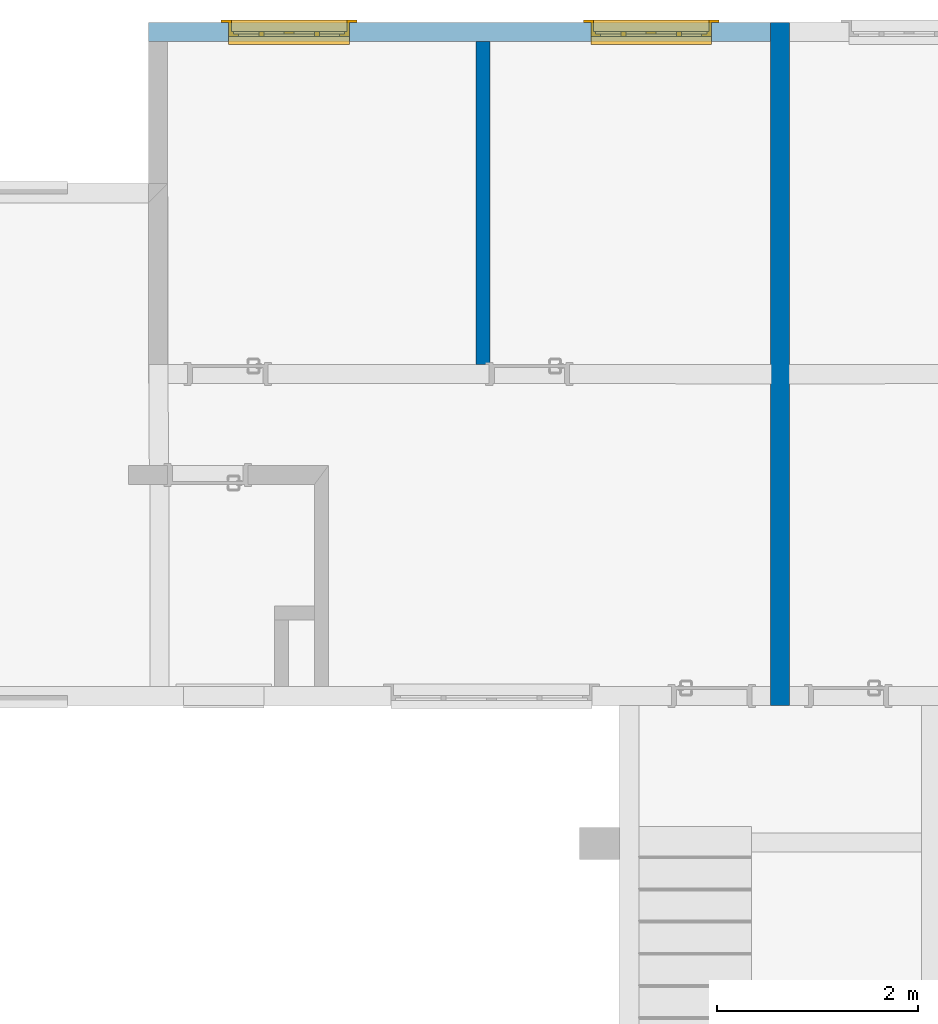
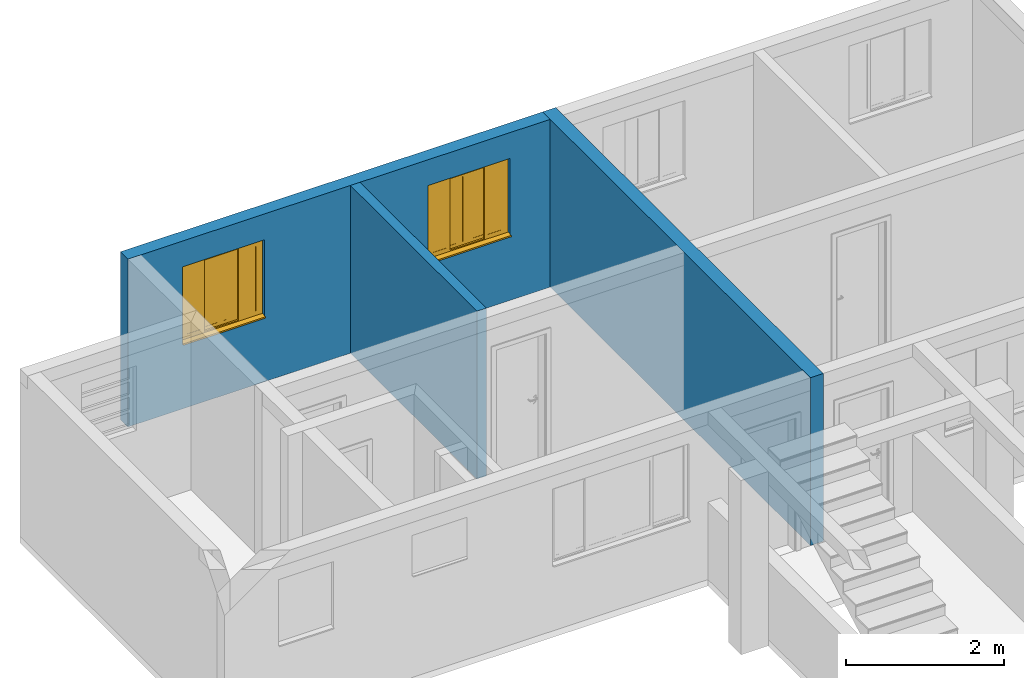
# One storey, part 35 of 43: 3 walls, 2 windows, 2 openings.
"""IFC2X3 building model written with IfcOpenShell, lengths in millimetres."""

from ifc_helpers import new_model, entity, si_unit, converted_unit, derived_unit, money_unit, direction, frame, origin_with_axes, origin_2d_with_axis, place, context, subcontext, project, spatial, polyline, rectangle, outline, extrude, open_shell, faceted_brep, surface_model, source, transform, mapped, material, layer, layer_set, layer_usage, type_object, element, fill, save


model = new_model("IFC2X3")

# Units and contexts
model_context = context("Model", 3, precision=0.01, world=origin_with_axes(), true_north=direction((0.0, 1.0)))
body_context = subcontext(model_context, "Body", "Model", "MODEL_VIEW")
ifc_project = project(units=[si_unit("LENGTHUNIT", "METRE", prefix="MILLI"), si_unit("AREAUNIT", "SQUARE_METRE"), si_unit("VOLUMEUNIT", "CUBIC_METRE"), converted_unit("PLANEANGLEUNIT", "DEGREE", entity("IfcPlaneAngleMeasure", 0.0174532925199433), si_unit("PLANEANGLEUNIT", "RADIAN"), dimensions=[0, 0, 0, 0, 0, 0, 0]), money_unit("USD"), converted_unit("TIMEUNIT", "Year", entity("IfcTimeMeasure", 31557600.0), si_unit("TIMEUNIT", "SECOND"), dimensions=[0, 0, 1, 0, 0, 0, 0]), si_unit("MASSUNIT", "GRAM", prefix="KILO"), si_unit("THERMODYNAMICTEMPERATUREUNIT", "DEGREE_CELSIUS"), si_unit("LUMINOUSINTENSITYUNIT", "LUMEN"), si_unit("ENERGYUNIT", "JOULE", prefix="MEGA"), derived_unit("THERMALCONDUCTANCEUNIT", [(si_unit("POWERUNIT", "WATT"), 1), (si_unit("LENGTHUNIT", "METRE"), -1), (si_unit("THERMODYNAMICTEMPERATUREUNIT", "KELVIN"), -1)]), derived_unit("SPECIFICHEATCAPACITYUNIT", [(si_unit("ENERGYUNIT", "JOULE"), 1), (si_unit("MASSUNIT", "GRAM", prefix="KILO"), -1), (si_unit("THERMODYNAMICTEMPERATUREUNIT", "KELVIN"), -1)]), derived_unit("MASSDENSITYUNIT", [(si_unit("MASSUNIT", "GRAM", prefix="KILO"), 1), (si_unit("VOLUMEUNIT", "CUBIC_METRE"), -1)])], contexts=[model_context])

# Site, building, storey
site_placement = place(None, origin_with_axes())
site = spatial("IfcSite", under=ifc_project, at=site_placement, Name="Local", CompositionType="ELEMENT")
building_placement = place(site_placement, origin_with_axes())
building = spatial("IfcBuilding", under=site, at=building_placement, Name="Construção", CompositionType="ELEMENT")
storey_placement = place(building_placement, origin_with_axes())
storey = spatial("IfcBuildingStorey", under=building, at=storey_placement, Name="Pavimento Tipo", CompositionType="ELEMENT", Elevation=0.0)

# Wall
ifc_material_1 = material(Name="Concreto - Estrutural")
ifc_layer_1 = layer(ifc_material_1, 190.0, ventilated="UNKNOWN")
ifc_layer_set_1 = layer_set([ifc_layer_1], Name="Concreto - Estrutural 190")
ifc_layer_usage_1 = layer_usage(ifc_layer_set_1, "AXIS2", "NEGATIVE", 0.0)
wall_type_1 = type_object("IfcWallType", Name="Concreto - Estrutural 190", PredefinedType="NOTDEFINED")
wall_1_placement = place(storey_placement, frame((63892.19973179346, 12435.36495309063, 0.0), z_axis=(0.0, 0.0, 1.0), x_axis=(0.0, -1.0, 0.0)))
element("IfcWallStandardCase", 1, at=wall_1_placement, inside=storey, type_object=wall_type_1, material=ifc_layer_usage_1, Name="Apartamentos 1 e 2 - Parede-006", context=body_context, shape_type="SweptSolid", body=[
    extrude(outline(polyline([(0.0, -189.9999999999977), (6792.903432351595, -189.9999999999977), (6792.903432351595, 0.0), (0.0, 0.0), (0.0, -189.9999999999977)])), origin_with_axes(), (0.0, 0.0, 1.0), 2600.000000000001),
])

# Wall, openings, windows
ifc_layer_usage_2 = layer_usage(ifc_layer_set_1, "AXIS2", "POSITIVE", 0.0)
wall_2_placement = place(storey_placement, frame((57514.86531294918, 12245.36495309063, 0.0), z_axis=(0.0, 0.0, 1.0), x_axis=(1.0, 0.0, 0.0)))
wall_2 = element("IfcWallStandardCase", 2, at=wall_2_placement, inside=storey, type_object=wall_type_1, material=ifc_layer_usage_2, Name="Apartamento 2 - Parede-005", context=body_context, shape_type="SweptSolid", body=[
    extrude(outline(polyline([(0.0, 0.0), (6187.334418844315, 0.0), (6187.334418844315, 189.9999999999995), (0.0, 189.9999999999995), (0.0, 0.0)])), origin_with_axes(), (0.0, 0.0, 1.0), 2600.0),
])
opening_1_placement = place(wall_2_placement, frame((4999.999999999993, 0.0, 1000.0), z_axis=(0.0, 0.0, 1.0), x_axis=(1.0, 0.0, 0.0)))
opening_1 = element("IfcOpeningElement", 3, at=opening_1_placement, cuts=wall_2, Name="Apartamento 2 - J06", context=body_context, shape_type="SweptSolid", body=[
    extrude(rectangle(XDim=1200.000000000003, YDim=1200.0, at=origin_2d_with_axis()), frame((0.0, 49.99999999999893, 600.0000000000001), z_axis=(0.0, 1.0, 0.0), x_axis=(-1.0, 0.0, 0.0)), (0.0, 0.0, 1.0), 330.0),
    extrude(rectangle(XDim=1200.000000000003, YDim=1200.0, at=origin_2d_with_axis()), frame((0.0, 50.00000000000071, 600.0000000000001), z_axis=(0.0, -1.0, 0.0), x_axis=(-1.0, 0.0, 0.0)), (0.0, 0.0, 1.0), 240.0),
    extrude(rectangle(XDim=1349.999999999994, YDim=1350.0, at=origin_2d_with_axis()), frame((0.0, 189.9999999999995, 600.0000000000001), z_axis=(0.0, 1.0, 0.0), x_axis=(-1.0, 0.0, 0.0)), (0.0, 0.0, 1.0), 240.0),
])
opening_2_placement = place(wall_2_placement, frame((1399.999999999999, 0.0, 1000.0), z_axis=(0.0, 0.0, 1.0), x_axis=(1.0, 0.0, 0.0)))
opening_2 = element("IfcOpeningElement", 4, at=opening_2_placement, cuts=wall_2, Name="Apartamento 2 - J05", context=body_context, shape_type="SweptSolid", body=[
    extrude(rectangle(XDim=1200.000000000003, YDim=1200.0, at=origin_2d_with_axis()), frame((0.0, 49.99999999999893, 600.0000000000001), z_axis=(0.0, 1.0, 0.0), x_axis=(-1.0, 0.0, 0.0)), (0.0, 0.0, 1.0), 330.0),
    extrude(rectangle(XDim=1200.000000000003, YDim=1200.0, at=origin_2d_with_axis()), frame((0.0, 50.00000000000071, 600.0000000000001), z_axis=(0.0, -1.0, 0.0), x_axis=(-1.0, 0.0, 0.0)), (0.0, 0.0, 1.0), 240.0),
    extrude(rectangle(XDim=1349.999999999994, YDim=1350.0, at=origin_2d_with_axis()), frame((0.0, 189.9999999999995, 600.0000000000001), z_axis=(0.0, 1.0, 0.0), x_axis=(-1.0, 0.0, 0.0)), (0.0, 0.0, 1.0), 240.0),
])
window_style = type_object("IfcWindowStyle", Name="Janela de Correr 4-Folhas 27", ConstructionType="NOTDEFINED", OperationType="USERDEFINED", ParameterTakesPrecedence=False, Sizeable=False)
shared_shape = source(origin_with_axes(), body_context, "Body", "SurfaceModel", [
    faceted_brep([(600.0, -50.0, 4.999999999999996), (600.0, -50.0, 30.0), (600.0, -100.0, 27.37961103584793), (600.0, -100.0, 4.999999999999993), (-600.0, -50.0, 4.999999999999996), (-600.0, -50.0, 30.0), (-600.0, -100.0, 27.37961103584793), (-600.0, -130.0, 25.80737765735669), (600.0, -130.0, 25.80737765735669), (600.0, -130.0, 4.999999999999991), (-600.0, -130.0, 4.999999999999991), (-600.0, -100.0, 4.999999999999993)], [[[0, 1, 2, 3]], [[4, 5, 1, 0]], [[1, 5, 6, 7, 8, 2]], [[3, 2, 8, 9]], [[0, 3, 9, 10, 11, 4]], [[11, 6, 5, 4]], [[10, 7, 6, 11]], [[9, 8, 7, 10]]]),
    faceted_brep([(600.0, -50.0, 0.0), (600.0, -50.0, 4.999999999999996), (600.0, -100.0, 4.999999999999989), (600.0, -100.0, 0.0), (-600.0, -50.0, 0.0), (-600.0, -50.0, 4.999999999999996), (-600.0, -100.0, 4.999999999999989), (-600.0, -100.0, 0.0)], [[[0, 1, 2, 3]], [[4, 5, 1, 0]], [[1, 5, 6, 2]], [[3, 2, 6, 7]], [[0, 3, 7, 4]], [[7, 6, 5, 4]]]),
    faceted_brep([(600.0, 0.0, 0.0), (-600.0, 0.0, 0.0), (-600.0, 90.00000000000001, 0.0), (600.0, 90.00000000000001, 0.0), (600.0, 0.0, 1200.0), (-600.0, 0.0, 1200.0), (575.0, 0.0, 24.99999999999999), (-575.0, 0.0, 24.99999999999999), (-575.0, 0.0, 1175.0), (575.0, 0.0, 1175.0), (-600.0, 90.00000000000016, 1200.0), (600.0, 90.00000000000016, 1200.0), (575.0, 90.00000000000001, 24.99999999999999), (575.0, 90.00000000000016, 1175.0), (-575.0, 90.00000000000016, 1175.0), (-575.0, 90.00000000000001, 24.99999999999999)], [[[0, 1, 2, 3]], [[0, 4, 5, 1], [6, 7, 8, 9]], [[1, 5, 10, 2]], [[3, 2, 10, 11], [12, 13, 14, 15]], [[4, 0, 3, 11]], [[5, 4, 11, 10]], [[7, 6, 12, 15]], [[8, 7, 15, 14]], [[9, 8, 14, 13]], [[6, 9, 13, 12]]]),
    faceted_brep([(674.9999999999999, 115.0, -75.00000000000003), (674.9999999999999, 90.00000000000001, -75.00000000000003), (575.0, 90.00000000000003, 24.99999999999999), (575.0, 115.0, 24.99999999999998), (674.9999999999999, 115.0000000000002, 1275.0), (674.9999999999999, 90.00000000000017, 1275.0), (575.0, 90.00000000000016, 1175.0), (575.0, 115.0000000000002, 1175.0)], [[[0, 1, 2, 3]], [[4, 5, 1, 0]], [[1, 5, 6, 2]], [[3, 2, 6, 7]], [[0, 3, 7, 4]], [[7, 6, 5, 4]]]),
    faceted_brep([(-674.9999999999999, 115.0000000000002, 1275.0), (-674.9999999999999, 90.00000000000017, 1275.0), (-575.0, 90.00000000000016, 1175.0), (-575.0, 115.0000000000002, 1175.0), (-674.9999999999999, 115.0, -75.00000000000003), (-674.9999999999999, 90.00000000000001, -75.00000000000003), (-575.0, 90.00000000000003, 24.99999999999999), (-575.0, 115.0, 24.99999999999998)], [[[0, 1, 2, 3]], [[4, 5, 1, 0]], [[1, 5, 6, 2]], [[3, 2, 6, 7]], [[0, 3, 7, 4]], [[7, 6, 5, 4]]]),
    faceted_brep([(-674.9999999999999, 115.0, -75.00000000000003), (-674.9999999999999, 90.00000000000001, -75.00000000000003), (-575.0, 90.00000000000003, 24.99999999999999), (-575.0, 115.0, 24.99999999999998), (674.9999999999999, 115.0, -75.00000000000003), (674.9999999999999, 90.00000000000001, -75.00000000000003), (575.0, 90.00000000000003, 24.99999999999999), (575.0, 115.0, 24.99999999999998)], [[[0, 1, 2, 3]], [[4, 5, 1, 0]], [[1, 5, 6, 2]], [[3, 2, 6, 7]], [[0, 3, 7, 4]], [[7, 6, 5, 4]]]),
    faceted_brep([(674.9999999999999, 115.0000000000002, 1275.0), (674.9999999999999, 90.00000000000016, 1275.0), (575.0, 90.00000000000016, 1175.0), (575.0, 115.0000000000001, 1175.0), (-674.9999999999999, 115.0000000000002, 1275.0), (-674.9999999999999, 90.00000000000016, 1275.0), (-575.0, 90.00000000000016, 1175.0), (-575.0, 115.0000000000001, 1175.0)], [[[0, 1, 2, 3]], [[4, 5, 1, 0]], [[1, 5, 6, 2]], [[3, 2, 6, 7]], [[0, 3, 7, 4]], [[7, 6, 5, 4]]]),
    faceted_brep([(552.9999999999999, -50.00000000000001, 47.0), (552.9999999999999, -50.00000000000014, 1153.0), (552.9999999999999, 0.0, 1153.0), (552.9999999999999, 0.0, 47.00000000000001), (600.0, -50.00000000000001, 47.0), (600.0, -50.00000000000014, 1153.0), (600.0, 0.0, 1153.0), (600.0, 0.0, 47.00000000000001)], [[[0, 1, 2, 3]], [[0, 4, 5, 1]], [[1, 5, 6, 2]], [[3, 2, 6, 7]], [[4, 0, 3, 7]], [[5, 4, 7, 6]]]),
    faceted_brep([(-600.0, -50.00000000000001, 47.0), (-600.0, -50.00000000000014, 1153.0), (-600.0, 0.0, 1153.0), (-600.0, 0.0, 47.00000000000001), (-552.9999999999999, -50.00000000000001, 47.0), (-552.9999999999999, -50.00000000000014, 1153.0), (-552.9999999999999, 0.0, 1153.0), (-552.9999999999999, 0.0, 47.00000000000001)], [[[0, 1, 2, 3]], [[0, 4, 5, 1]], [[1, 5, 6, 2]], [[3, 2, 6, 7]], [[4, 0, 3, 7]], [[5, 4, 7, 6]]]),
    faceted_brep([(-600.0, -50.00000000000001, 47.0), (-552.9999999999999, -50.00000000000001, 47.0), (-552.9999999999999, 0.0, 47.00000000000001), (-600.0, 0.0, 47.00000000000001), (-600.0, -50.0, 0.0), (600.0, -50.0, 0.0), (600.0, -50.00000000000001, 47.0), (552.9999999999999, -50.00000000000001, 47.0), (552.9999999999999, 0.0, 47.00000000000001), (600.0, 0.0, 47.00000000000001), (600.0, 0.0, 0.0), (-600.0, 0.0, 0.0)], [[[0, 1, 2, 3]], [[0, 4, 5, 6, 7, 1]], [[1, 7, 8, 2]], [[3, 2, 8, 9, 10, 11]], [[4, 0, 3, 11]], [[5, 4, 11, 10]], [[6, 5, 10, 9]], [[7, 6, 9, 8]]]),
    faceted_brep([(-600.0, -50.00000000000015, 1200.0), (600.0, -50.00000000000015, 1200.0), (600.0, 0.0, 1200.0), (-600.0, 0.0, 1200.0), (-600.0, -50.00000000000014, 1153.0), (-552.9999999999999, -50.00000000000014, 1153.0), (-276.5, -50.00000000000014, 1153.0), (0.0, -50.00000000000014, 1153.0), (276.4999999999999, -50.00000000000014, 1153.0), (552.9999999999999, -50.00000000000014, 1153.0), (600.0, -50.00000000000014, 1153.0), (600.0, 0.0, 1153.0), (552.9999999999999, 0.0, 1153.0), (276.4999999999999, 0.0, 1153.0), (0.0, 0.0, 1153.0), (-276.5, 0.0, 1153.0), (-552.9999999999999, 0.0, 1153.0), (-600.0, 0.0, 1153.0)], [[[0, 1, 2, 3]], [[0, 4, 5, 6, 7, 8, 9, 10, 1]], [[1, 10, 11, 2]], [[3, 2, 11, 12, 13, 14, 15, 16, 17]], [[4, 0, 3, 17]], [[5, 4, 17, 16]], [[6, 5, 16, 15]], [[7, 6, 15, 14]], [[8, 7, 14, 13]], [[9, 8, 13, 12]], [[10, 9, 12, 11]]]),
    faceted_brep([(502.9999999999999, -50.00000000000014, 1103.0), (552.9999999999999, -50.00000000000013, 1103.0), (552.9999999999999, -25.00000000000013, 1103.0), (502.9999999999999, -25.00000000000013, 1103.0), (502.9999999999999, -50.00000000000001, 97.0), (552.9999999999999, -50.00000000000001, 97.0), (552.9999999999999, -25.0, 97.0), (502.9999999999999, -25.00000000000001, 97.0)], [[[0, 1, 2, 3]], [[0, 4, 5, 1]], [[1, 5, 6, 2]], [[3, 2, 6, 7]], [[4, 0, 3, 7]], [[5, 4, 7, 6]]]),
    faceted_brep([(301.4999999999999, -50.00000000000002, 97.0), (251.4999999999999, -50.00000000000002, 97.0), (251.4999999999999, -25.00000000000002, 97.0), (301.4999999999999, -25.00000000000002, 97.0), (301.4999999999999, -50.00000000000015, 1103.0), (251.4999999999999, -50.00000000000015, 1103.0), (251.4999999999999, -25.00000000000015, 1103.0), (301.4999999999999, -25.00000000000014, 1103.0)], [[[0, 1, 2, 3]], [[0, 4, 5, 1]], [[1, 5, 6, 2]], [[3, 2, 6, 7]], [[4, 0, 3, 7]], [[5, 4, 7, 6]]]),
    faceted_brep([(251.4999999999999, -50.00000000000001, 47.0), (251.4999999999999, -50.00000000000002, 97.0), (251.4999999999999, -25.00000000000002, 97.0), (251.4999999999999, -25.00000000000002, 47.0), (552.9999999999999, -50.0, 47.0), (552.9999999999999, -50.00000000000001, 97.0), (502.9999999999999, -50.00000000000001, 97.0), (301.4999999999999, -50.00000000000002, 97.0), (301.4999999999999, -25.00000000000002, 97.0), (502.9999999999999, -25.00000000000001, 97.0), (552.9999999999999, -25.0, 97.0), (552.9999999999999, -25.0, 47.0)], [[[0, 1, 2, 3]], [[0, 4, 5, 6, 7, 1]], [[1, 7, 8, 2]], [[3, 2, 8, 9, 10, 11]], [[4, 0, 3, 11]], [[5, 4, 11, 10]], [[6, 5, 10, 9]], [[7, 6, 9, 8]]]),
    faceted_brep([(552.9999999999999, -50.00000000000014, 1153.0), (552.9999999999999, -50.00000000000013, 1103.0), (552.9999999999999, -25.00000000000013, 1103.0), (552.9999999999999, -25.00000000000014, 1153.0), (251.4999999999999, -50.00000000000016, 1153.0), (251.4999999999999, -50.00000000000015, 1103.0), (301.4999999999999, -50.00000000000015, 1103.0), (502.9999999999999, -50.00000000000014, 1103.0), (502.9999999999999, -25.00000000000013, 1103.0), (301.4999999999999, -25.00000000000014, 1103.0), (251.4999999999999, -25.00000000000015, 1103.0), (251.4999999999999, -25.00000000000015, 1153.0)], [[[0, 1, 2, 3]], [[0, 4, 5, 6, 7, 1]], [[1, 7, 8, 2]], [[3, 2, 8, 9, 10, 11]], [[4, 0, 3, 11]], [[5, 4, 11, 10]], [[6, 5, 10, 9]], [[7, 6, 9, 8]]]),
    surface_model("IfcShellBasedSurfaceModel", [(502.9999999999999, -47.50000000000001, 97.0), (502.9999999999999, -47.50000000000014, 1103.0), (301.4999999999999, -47.50000000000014, 1103.0), (301.4999999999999, -47.50000000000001, 97.0)], [open_shell([[[0, 1, 2, 3]]])]),
    surface_model("IfcShellBasedSurfaceModel", [(502.9999999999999, -27.50000000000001, 97.0), (301.4999999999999, -27.50000000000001, 97.0), (301.4999999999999, -27.50000000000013, 1103.0), (502.9999999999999, -27.50000000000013, 1103.0)], [open_shell([[[0, 1, 2, 3]]])]),
    faceted_brep([(251.4999999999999, -25.00000000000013, 1103.0), (301.4999999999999, -25.00000000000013, 1103.0), (301.4999999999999, 0.0, 1103.0), (251.4999999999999, 0.0, 1103.0), (251.4999999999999, -25.00000000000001, 97.0), (301.4999999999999, -25.0, 97.0), (301.4999999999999, 0.0, 97.0), (251.4999999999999, 0.0, 97.0)], [[[0, 1, 2, 3]], [[0, 4, 5, 1]], [[1, 5, 6, 2]], [[3, 2, 6, 7]], [[4, 0, 3, 7]], [[5, 4, 7, 6]]]),
    faceted_brep([(49.99999999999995, -25.00000000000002, 97.0), (0.0, -25.00000000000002, 97.0), (0.0, 0.0, 97.0), (49.99999999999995, 0.0, 97.0), (49.99999999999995, -25.00000000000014, 1103.0), (0.0, -25.00000000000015, 1103.0), (0.0, 0.0, 1103.0), (49.99999999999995, 0.0, 1103.0)], [[[0, 1, 2, 3]], [[0, 4, 5, 1]], [[1, 5, 6, 2]], [[3, 2, 6, 7]], [[4, 0, 3, 7]], [[5, 4, 7, 6]]]),
    faceted_brep([(0.0, -25.00000000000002, 47.0), (0.0, -25.00000000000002, 97.0), (0.0, 0.0, 97.0), (0.0, 0.0, 47.0), (301.4999999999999, -25.0, 47.0), (301.4999999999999, -25.0, 97.0), (251.4999999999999, -25.00000000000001, 97.0), (49.99999999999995, -25.00000000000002, 97.0), (49.99999999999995, 0.0, 97.0), (251.4999999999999, 0.0, 97.0), (301.4999999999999, 0.0, 97.0), (301.4999999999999, 0.0, 47.0)], [[[0, 1, 2, 3]], [[0, 4, 5, 6, 7, 1]], [[1, 7, 8, 2]], [[3, 2, 8, 9, 10, 11]], [[4, 0, 3, 11]], [[5, 4, 11, 10]], [[6, 5, 10, 9]], [[7, 6, 9, 8]]]),
    faceted_brep([(301.4999999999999, -25.00000000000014, 1153.0), (301.4999999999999, -25.00000000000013, 1103.0), (301.4999999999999, 0.0, 1103.0), (301.4999999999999, 0.0, 1153.0), (0.0, -25.00000000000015, 1153.0), (0.0, -25.00000000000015, 1103.0), (49.99999999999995, -25.00000000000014, 1103.0), (251.4999999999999, -25.00000000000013, 1103.0), (251.4999999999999, 0.0, 1103.0), (49.99999999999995, 0.0, 1103.0), (0.0, 0.0, 1103.0), (0.0, 0.0, 1153.0)], [[[0, 1, 2, 3]], [[0, 4, 5, 6, 7, 1]], [[1, 7, 8, 2]], [[3, 2, 8, 9, 10, 11]], [[4, 0, 3, 11]], [[5, 4, 11, 10]], [[6, 5, 10, 9]], [[7, 6, 9, 8]]]),
    surface_model("IfcShellBasedSurfaceModel", [(251.4999999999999, -22.50000000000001, 97.0), (251.4999999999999, -22.50000000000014, 1103.0), (49.99999999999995, -22.50000000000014, 1103.0), (49.99999999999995, -22.50000000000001, 97.0)], [open_shell([[[0, 1, 2, 3]]])]),
    surface_model("IfcShellBasedSurfaceModel", [(251.4999999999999, -2.500000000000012, 97.0), (49.99999999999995, -2.500000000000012, 97.0), (49.99999999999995, -2.500000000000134, 1103.0), (251.4999999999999, -2.500000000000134, 1103.0)], [open_shell([[[0, 1, 2, 3]]])]),
    faceted_brep([(-50.00000000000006, -25.00000000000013, 1103.0), (0.0, -25.00000000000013, 1103.0), (0.0, 0.0, 1103.0), (-50.00000000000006, 0.0, 1103.0), (-50.00000000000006, -25.00000000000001, 97.0), (0.0, -25.0, 97.0), (0.0, 0.0, 97.0), (-50.00000000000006, 0.0, 97.0)], [[[0, 1, 2, 3]], [[0, 4, 5, 1]], [[1, 5, 6, 2]], [[3, 2, 6, 7]], [[4, 0, 3, 7]], [[5, 4, 7, 6]]]),
    faceted_brep([(-251.5000000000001, -25.00000000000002, 97.0), (-301.5000000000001, -25.00000000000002, 97.0), (-301.5000000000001, 0.0, 97.0), (-251.5000000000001, 0.0, 97.0), (-251.5000000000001, -25.00000000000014, 1103.0), (-301.5000000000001, -25.00000000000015, 1103.0), (-301.5000000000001, 0.0, 1103.0), (-251.5000000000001, 0.0, 1103.0)], [[[0, 1, 2, 3]], [[0, 4, 5, 1]], [[1, 5, 6, 2]], [[3, 2, 6, 7]], [[4, 0, 3, 7]], [[5, 4, 7, 6]]]),
    faceted_brep([(-301.5000000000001, -25.00000000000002, 47.0), (-301.5000000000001, -25.00000000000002, 97.0), (-301.5000000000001, 0.0, 97.0), (-301.5000000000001, 0.0, 47.0), (0.0, -25.0, 47.0), (0.0, -25.0, 97.0), (-50.00000000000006, -25.00000000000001, 97.0), (-251.5000000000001, -25.00000000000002, 97.0), (-251.5000000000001, 0.0, 97.0), (-50.00000000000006, 0.0, 97.0), (0.0, 0.0, 97.0), (0.0, 0.0, 47.0)], [[[0, 1, 2, 3]], [[0, 4, 5, 6, 7, 1]], [[1, 7, 8, 2]], [[3, 2, 8, 9, 10, 11]], [[4, 0, 3, 11]], [[5, 4, 11, 10]], [[6, 5, 10, 9]], [[7, 6, 9, 8]]]),
    faceted_brep([(0.0, -25.00000000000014, 1153.0), (0.0, -25.00000000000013, 1103.0), (0.0, 0.0, 1103.0), (0.0, 0.0, 1153.0), (-301.5000000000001, -25.00000000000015, 1153.0), (-301.5000000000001, -25.00000000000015, 1103.0), (-251.5000000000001, -25.00000000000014, 1103.0), (-50.00000000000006, -25.00000000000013, 1103.0), (-50.00000000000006, 0.0, 1103.0), (-251.5000000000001, 0.0, 1103.0), (-301.5000000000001, 0.0, 1103.0), (-301.5000000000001, 0.0, 1153.0)], [[[0, 1, 2, 3]], [[0, 4, 5, 6, 7, 1]], [[1, 7, 8, 2]], [[3, 2, 8, 9, 10, 11]], [[4, 0, 3, 11]], [[5, 4, 11, 10]], [[6, 5, 10, 9]], [[7, 6, 9, 8]]]),
    surface_model("IfcShellBasedSurfaceModel", [(-50.00000000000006, -22.50000000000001, 97.0), (-50.00000000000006, -22.50000000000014, 1103.0), (-251.5000000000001, -22.50000000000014, 1103.0), (-251.5000000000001, -22.50000000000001, 97.0)], [open_shell([[[0, 1, 2, 3]]])]),
    surface_model("IfcShellBasedSurfaceModel", [(-50.00000000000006, -2.500000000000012, 97.0), (-251.5000000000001, -2.500000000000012, 97.0), (-251.5000000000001, -2.500000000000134, 1103.0), (-50.00000000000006, -2.500000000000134, 1103.0)], [open_shell([[[0, 1, 2, 3]]])]),
    faceted_brep([(-301.5000000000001, -50.00000000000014, 1103.0), (-251.5000000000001, -50.00000000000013, 1103.0), (-251.5000000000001, -25.00000000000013, 1103.0), (-301.5000000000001, -25.00000000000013, 1103.0), (-301.5000000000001, -50.00000000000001, 97.0), (-251.5000000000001, -50.00000000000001, 97.0), (-251.5000000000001, -25.0, 97.0), (-301.5000000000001, -25.00000000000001, 97.0)], [[[0, 1, 2, 3]], [[0, 4, 5, 1]], [[1, 5, 6, 2]], [[3, 2, 6, 7]], [[4, 0, 3, 7]], [[5, 4, 7, 6]]]),
    faceted_brep([(-503.0, -50.00000000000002, 97.0), (-553.0, -50.00000000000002, 97.0), (-553.0, -25.00000000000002, 97.0), (-503.0, -25.00000000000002, 97.0), (-503.0, -50.00000000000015, 1103.0), (-553.0, -50.00000000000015, 1103.0), (-553.0, -25.00000000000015, 1103.0), (-503.0, -25.00000000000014, 1103.0)], [[[0, 1, 2, 3]], [[0, 4, 5, 1]], [[1, 5, 6, 2]], [[3, 2, 6, 7]], [[4, 0, 3, 7]], [[5, 4, 7, 6]]]),
    faceted_brep([(-553.0, -50.00000000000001, 47.0), (-553.0, -50.00000000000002, 97.0), (-553.0, -25.00000000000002, 97.0), (-553.0, -25.00000000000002, 47.0), (-251.5000000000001, -50.0, 47.0), (-251.5000000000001, -50.00000000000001, 97.0), (-301.5000000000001, -50.00000000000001, 97.0), (-503.0, -50.00000000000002, 97.0), (-503.0, -25.00000000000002, 97.0), (-301.5000000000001, -25.00000000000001, 97.0), (-251.5000000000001, -25.0, 97.0), (-251.5000000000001, -25.0, 47.0)], [[[0, 1, 2, 3]], [[0, 4, 5, 6, 7, 1]], [[1, 7, 8, 2]], [[3, 2, 8, 9, 10, 11]], [[4, 0, 3, 11]], [[5, 4, 11, 10]], [[6, 5, 10, 9]], [[7, 6, 9, 8]]]),
    faceted_brep([(-251.5000000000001, -50.00000000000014, 1153.0), (-251.5000000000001, -50.00000000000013, 1103.0), (-251.5000000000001, -25.00000000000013, 1103.0), (-251.5000000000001, -25.00000000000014, 1153.0), (-553.0, -50.00000000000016, 1153.0), (-553.0, -50.00000000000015, 1103.0), (-503.0, -50.00000000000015, 1103.0), (-301.5000000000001, -50.00000000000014, 1103.0), (-301.5000000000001, -25.00000000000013, 1103.0), (-503.0, -25.00000000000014, 1103.0), (-553.0, -25.00000000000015, 1103.0), (-553.0, -25.00000000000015, 1153.0)], [[[0, 1, 2, 3]], [[0, 4, 5, 6, 7, 1]], [[1, 7, 8, 2]], [[3, 2, 8, 9, 10, 11]], [[4, 0, 3, 11]], [[5, 4, 11, 10]], [[6, 5, 10, 9]], [[7, 6, 9, 8]]]),
    surface_model("IfcShellBasedSurfaceModel", [(-301.5, -47.50000000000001, 97.0), (-301.5, -47.50000000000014, 1103.0), (-503.0, -47.50000000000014, 1103.0), (-503.0, -47.50000000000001, 97.0)], [open_shell([[[0, 1, 2, 3]]])]),
    surface_model("IfcShellBasedSurfaceModel", [(-301.5, -27.50000000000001, 97.0), (-503.0, -27.50000000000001, 97.0), (-503.0, -27.50000000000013, 1103.0), (-301.5, -27.50000000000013, 1103.0)], [open_shell([[[0, 1, 2, 3]]])]),
])
window_1_placement = place(opening_1_placement, frame((-600.0000000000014, 0.0, 0.0), z_axis=(0.0, 0.0, 1.0), x_axis=(1.0, 0.0, 0.0)))
window_1 = element("IfcWindow", 5, at=window_1_placement, inside=storey, type_object=window_style, Name="Apartamento 2 - J06", ObjectType="WINDOW", OverallHeight=1200.0, OverallWidth=1200.0, context=body_context, shape_type="MappedRepresentation", body=[
    mapped(shared_shape, transform((600.0000000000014, 99.99999999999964, 0.0))),
])
fill(opening_1, window_1)
window_2_placement = place(opening_2_placement, frame((-600.0000000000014, 0.0, 0.0), z_axis=(0.0, 0.0, 1.0), x_axis=(1.0, 0.0, 0.0)))
window_2 = element("IfcWindow", 6, at=window_2_placement, inside=storey, type_object=window_style, Name="Apartamento 2 - J05", ObjectType="WINDOW", OverallHeight=1200.0, OverallWidth=1200.0, context=body_context, shape_type="MappedRepresentation", body=[
    mapped(shared_shape, transform((600.0000000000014, 99.99999999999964, 0.0))),
])
fill(opening_2, window_2)

# Wall
ifc_material_2 = material(Name="Concreto")
ifc_layer_2 = layer(ifc_material_2, 140.0, ventilated="UNKNOWN")
ifc_layer_set_2 = layer_set([ifc_layer_2], Name="Concreto 140")
ifc_layer_usage_3 = layer_usage(ifc_layer_set_2, "AXIS2", "POSITIVE", 0.0)
wall_type_2 = type_object("IfcWallType", Name="Concreto 140", PredefinedType="NOTDEFINED")
wall_3_placement = place(storey_placement, frame((60914.86531294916, 8844.271842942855, 0.0), z_axis=(0.0, 0.0, 1.0), x_axis=(0.0, 1.0, 0.0)))
element("IfcWallStandardCase", 7, at=wall_3_placement, inside=storey, type_object=wall_type_2, material=ifc_layer_usage_3, Name="Apartamento 2 - Parede-060", context=body_context, shape_type="SweptSolid", body=[
    extrude(outline(polyline([(190.0000098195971, 0.0), (3401.093110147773, 0.0), (3401.093110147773, 140.0000000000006), (190.0450202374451, 140.0000000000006), (190.0000098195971, 0.0)])), origin_with_axes(), (0.0, 0.0, 1.0), 2600.0),
])

save(model, "model.ifc")
